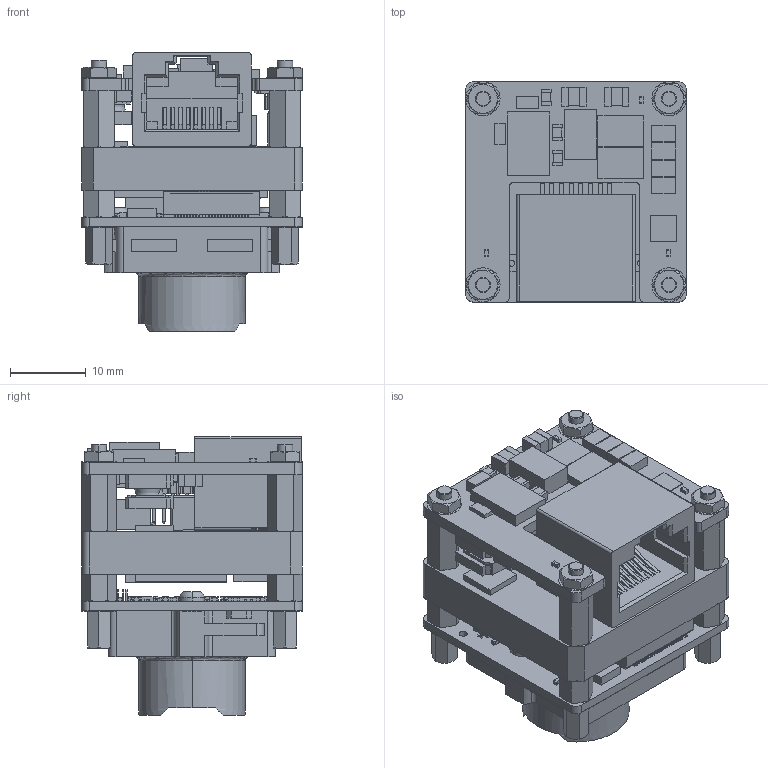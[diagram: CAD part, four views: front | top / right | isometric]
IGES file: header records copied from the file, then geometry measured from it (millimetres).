
Start section:  PTC IGES file: MV-CB060-10GM-M.igs
Global section: file name: MV-CB060-10GM-M.igs; native system: Creo Parametric by PTC Inc.; preprocessor: 2017260; author: gengdawei; organization: Unknown; date: 20201116.143822; units: millimetre
Bounding box: 29.01 x 29.12 x 36.7 mm (x, y, z)
Volume: 12687.8 mm3; surface area: 15758.2 mm2
Topology: 1 solids, 17 shells, 7890 faces, 22524 edges, 14875 vertices
Faces by surface type: bspline 5978, revolution 1912
